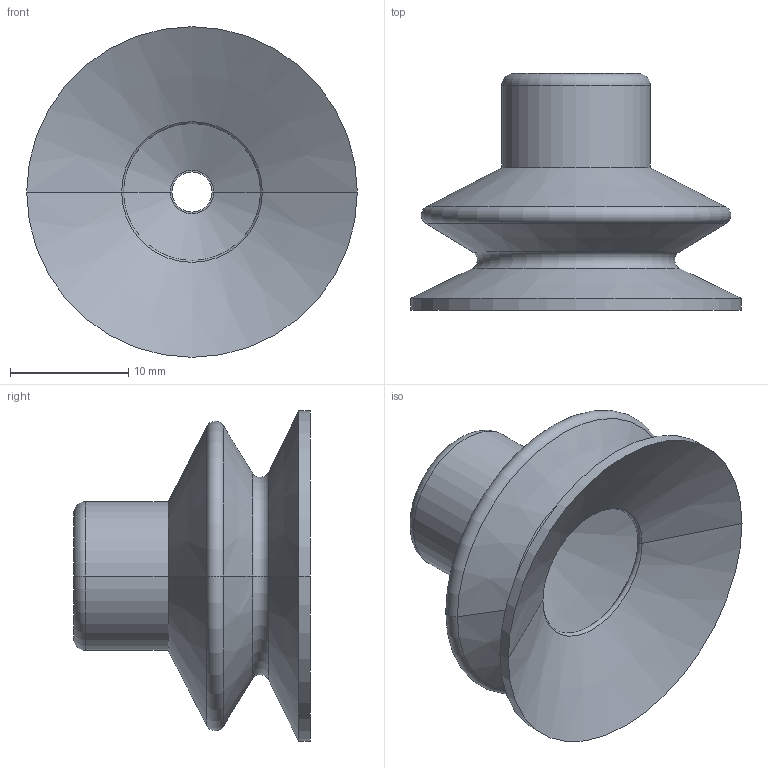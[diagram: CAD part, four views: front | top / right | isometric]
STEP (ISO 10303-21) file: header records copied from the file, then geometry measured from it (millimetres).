
FILE_DESCRIPTION (( 'STEP AP214' ), '1' );
FILE_NAME ('15B.028.001.STEP', '2024-08-13T15:32:36', ( '' ), ( '' ), 'SwSTEP 2.0', 'SolidWorks 2018', '' );
FILE_SCHEMA (( 'AUTOMOTIVE_DESIGN' ));
Length unit declared in the file: millimetre
Products named in the file (1): 15B.028.001
Bounding box: 28 x 20.05 x 28 mm (x, y, z)
Volume: 2504.2 mm3; surface area: 3384.5 mm2
Topology: 1 solids, 1 shells, 32 faces, 64 edges, 34 vertices
Faces by surface type: cone 14, torus 10, cylinder 6, plane 2
Entity records: 862 total; most frequent: DIRECTION 174, CARTESIAN_POINT 131, ORIENTED_EDGE 128, AXIS2_PLACEMENT_3D 77, EDGE_CURVE 64, CIRCLE 44, EDGE_LOOP 34, VERTEX_POINT 34
